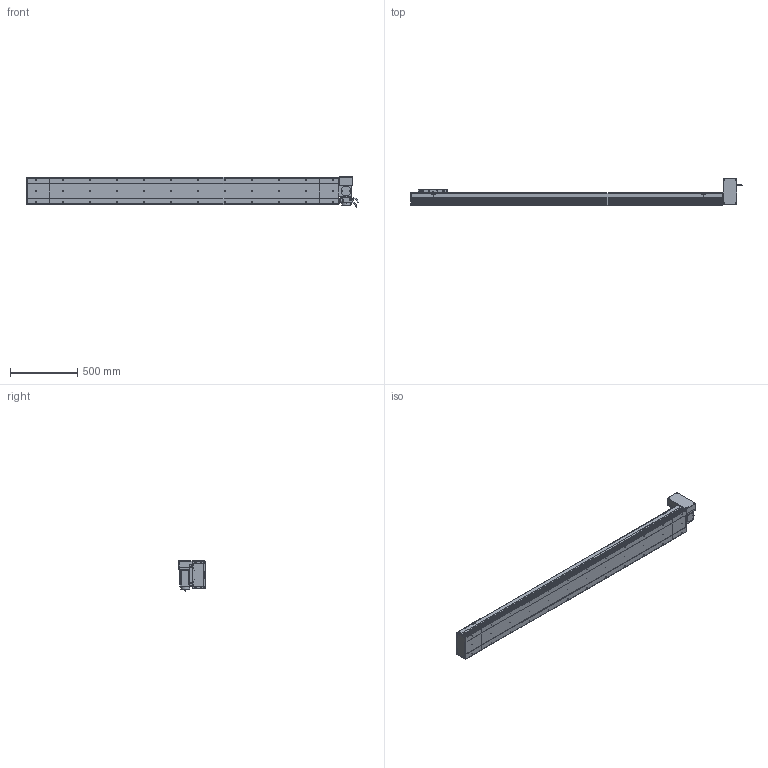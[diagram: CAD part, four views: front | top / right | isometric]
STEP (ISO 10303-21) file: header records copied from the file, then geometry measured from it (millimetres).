
FILE_DESCRIPTION (( 'STEP AP214' ), '1' );
FILE_NAME ('D20 CBH LT S2000.STEP', '2010-06-30T09:56:44', ( 'Conseil Régional Haute-Normandie' ), ( 'Conseil Régional Haute-Normandie' ), 'SwSTEP 2.0', 'SolidWorks 2010', '' );
FILE_SCHEMA (( 'AUTOMOTIVE_DESIGN' ));
Length unit declared in the file: millimetre
Products named in the file (31): Cache Support Moteur LT_Default; Support moteur LT_Default; Plaque De Serrage D20 LT_Default; Plaque de Bout Head D20 LT_Default; Couvercle LT_Default; vis M5 L30_Default; Conecteur_Default; ecrou_Default; corps 90BLDC125A-640; Conecteur2_Default; avant 90BLDC125A-640; Moteur motionking 90BLDC125A-640; codeur 90BLDC125-640; Rondelle Cache D20 LT_Default; Couvercle S2000_Default; Corp S2000_Default; vis M5 L15_Default; vis M5 L47_Default; Glissiere_Default; Support Chariot D20_Default; Tail D20_Default; Corp Tail D20_Default; Chariot D20_Default; Corp D20 S2000_Default; Plaque De Serrage D20_Default; Plaque de Bout Tail D20_Default; Couvercle_Default; Corp Tail D20 LT_Default; Head LT_Default; D20 CBH LT S2000
Assembly tree (66 placements, depth 4):
  D20 CBH LT S2000
    Tail D20_Default
      vis M5 L15_Default  x6
      Plaque de Bout Tail D20_Default
      Couvercle_Default
      Plaque De Serrage D20_Default
      Corp Tail D20_Default
    Head LT_Default
      Support moteur LT_Default
      vis M5 L15_Default  x12
      ecrou_Default  x4
      Rondelle Cache D20 LT_Default  x3
      Moteur motionking 90BLDC125A-640
        corps 90BLDC125A-640
        Conecteur_Default
        codeur 90BLDC125-640
        avant 90BLDC125A-640
        Conecteur2_Default
      Cache Support Moteur LT_Default
      vis M5 L30_Default  x4
      vis M5 L47_Default  x4
      Plaque De Serrage D20 LT_Default
      Couvercle LT_Default
      Plaque de Bout Head D20 LT_Default
      Corp Tail D20 LT_Default
    Chariot D20_Default
      Chariot D20_Default
      Support Chariot D20_Default
      vis M5 L15_Default  x8
      Glissiere_Default
    Corp D20 S2000_Default
      Corp S2000_Default
      Couvercle S2000_Default
Bounding box: 2463.45 x 202.5 x 229.7 mm (x, y, z)
Volume: 16847505.5 mm3; surface area: 3307524.3 mm2
Topology: 103 solids, 103 shells, 3783 faces, 9476 edges, 6160 vertices
Faces by surface type: plane 2098, bspline 806, cylinder 716, torus 91, cone 68, sphere 4
Entity records: 160870 total; most frequent: CARTESIAN_POINT 83263, ORIENTED_EDGE 15420, DIRECTION 11664, EDGE_CURVE 7710, VERTEX_POINT 5104, LINE 4946, VECTOR 4946, AXIS2_PLACEMENT_3D 3359
